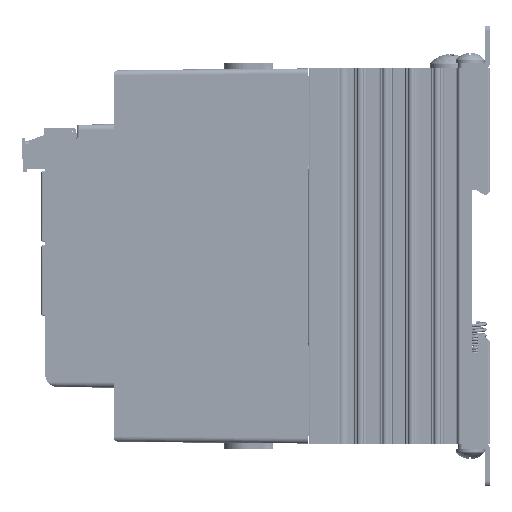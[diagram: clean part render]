
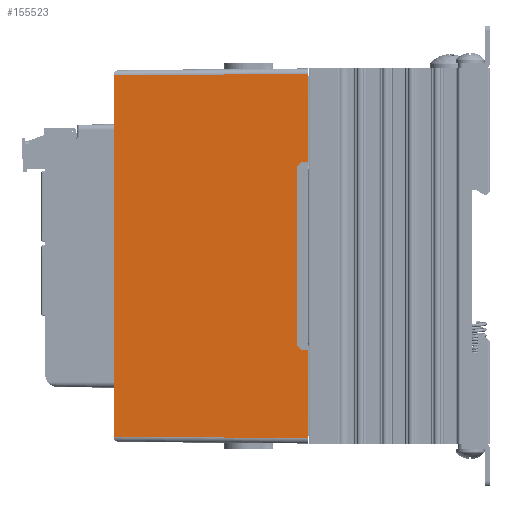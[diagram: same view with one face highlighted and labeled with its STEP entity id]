
A CAD part, left-side view. The second image highlights one B-rep face of the part: STEP entity #155523.
In plain terms, the highlighted planar face has unit normal (-1, 0.009, 0) as drawn and (-1, 0, 0.009) by its records, which use the part's own axes.
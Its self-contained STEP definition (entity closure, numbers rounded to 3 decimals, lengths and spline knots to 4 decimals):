
#15728=FACE_OUTER_BOUND('',#24193,.T.);
#24193=EDGE_LOOP('',(#133300,#133301,#133302,#133303,#133304,#133305,#133306,
#133307,#133308,#133309));
#39452=LINE('',#268453,#57090);
#40247=LINE('',#270423,#57885);
#40250=LINE('',#270428,#57888);
#40252=LINE('',#270433,#57890);
#40258=LINE('',#270444,#57896);
#40262=LINE('',#270452,#57900);
#40270=LINE('',#270472,#57908);
#40271=LINE('',#270474,#57909);
#40272=LINE('',#270476,#57910);
#40273=LINE('',#270477,#57911);
#57090=VECTOR('',#199976,0.3937);
#57885=VECTOR('',#201829,0.3937);
#57888=VECTOR('',#201834,0.3937);
#57890=VECTOR('',#201838,0.3937);
#57896=VECTOR('',#201848,0.3937);
#57900=VECTOR('',#201856,0.3937);
#57908=VECTOR('',#201876,0.3937);
#57909=VECTOR('',#201879,0.3937);
#57910=VECTOR('',#201880,0.3937);
#57911=VECTOR('',#201881,0.3937);
#72384=VERTEX_POINT('',#268450);
#72385=VERTEX_POINT('',#268452);
#72928=VERTEX_POINT('',#270420);
#72929=VERTEX_POINT('',#270422);
#72930=VERTEX_POINT('',#270426);
#72931=VERTEX_POINT('',#270430);
#72932=VERTEX_POINT('',#270432);
#72935=VERTEX_POINT('',#270442);
#72943=VERTEX_POINT('',#270470);
#72944=VERTEX_POINT('',#270475);
#92706=EDGE_CURVE('',#72385,#72384,#39452,.T.);
#93660=EDGE_CURVE('',#72929,#72928,#40247,.T.);
#93663=EDGE_CURVE('',#72928,#72930,#40250,.T.);
#93665=EDGE_CURVE('',#72932,#72931,#40252,.T.);
#93671=EDGE_CURVE('',#72930,#72935,#40258,.T.);
#93675=EDGE_CURVE('',#72935,#72932,#40262,.T.);
#93685=EDGE_CURVE('',#72931,#72943,#40270,.T.);
#93686=EDGE_CURVE('',#72385,#72943,#40271,.T.);
#93687=EDGE_CURVE('',#72944,#72384,#40272,.T.);
#93688=EDGE_CURVE('',#72944,#72929,#40273,.T.);
#133300=ORIENTED_EDGE('',*,*,#93660,.T.);
#133301=ORIENTED_EDGE('',*,*,#93663,.T.);
#133302=ORIENTED_EDGE('',*,*,#93671,.T.);
#133303=ORIENTED_EDGE('',*,*,#93675,.T.);
#133304=ORIENTED_EDGE('',*,*,#93665,.T.);
#133305=ORIENTED_EDGE('',*,*,#93685,.T.);
#133306=ORIENTED_EDGE('',*,*,#93686,.F.);
#133307=ORIENTED_EDGE('',*,*,#92706,.T.);
#133308=ORIENTED_EDGE('',*,*,#93687,.F.);
#133309=ORIENTED_EDGE('',*,*,#93688,.T.);
#147967=PLANE('',#166820);
#155523=ADVANCED_FACE('',(#15728),#147967,.T.);
#166820=AXIS2_PLACEMENT_3D('',#270473,#201877,#201878);
#199976=DIRECTION('',(0.,1.,0.));
#201829=DIRECTION('',(0.009,-0.009,1.));
#201834=DIRECTION('',(0.006,-0.71,0.704));
#201838=DIRECTION('',(-0.009,-0.009,-1.));
#201848=DIRECTION('',(0.,-1.,0.));
#201856=DIRECTION('',(-0.006,-0.71,-0.704));
#201876=DIRECTION('',(0.,-1.,0.));
#201877=DIRECTION('center_axis',(-1.,0.,
0.009));
#201878=DIRECTION('ref_axis',(0.,-1.,0.));
#201879=DIRECTION('',(-0.009,-0.009,-1.));
#201880=DIRECTION('',(0.009,-0.009,1.));
#201881=DIRECTION('',(0.,-1.,0.));
#268450=CARTESIAN_POINT('',(0.0158,3.4342,1.811));
#268452=CARTESIAN_POINT('',(0.0158,0.0658,1.811));
#268453=CARTESIAN_POINT('',(0.0158,3.5,1.811));
#270420=CARTESIAN_POINT('',(0.0005,2.6295,0.0521));
#270422=CARTESIAN_POINT('',(0.,2.63,0.));
#270423=CARTESIAN_POINT('',(0.0001,2.6299,0.0115));
#270426=CARTESIAN_POINT('',(0.0009,2.5762,0.105));
#270428=CARTESIAN_POINT('',(0.0061,1.9795,0.6965));
#270430=CARTESIAN_POINT('',(0.,0.87,0.));
#270432=CARTESIAN_POINT('',(0.0005,0.8705,0.0521));
#270433=CARTESIAN_POINT('',(0.0002,0.8702,0.0223));
#270442=CARTESIAN_POINT('',(0.0009,0.9238,0.105));
#270444=CARTESIAN_POINT('',(0.0009,1.2881,0.105));
#270452=CARTESIAN_POINT('',(-0.0013,0.6646,-0.152));
#270470=CARTESIAN_POINT('',(0.,0.05,0.));
#270472=CARTESIAN_POINT('',(0.,3.5,0.));
#270473=CARTESIAN_POINT('Origin',(0.,0.,0.));
#270474=CARTESIAN_POINT('',(0.0001,0.0501,0.0118));
#270475=CARTESIAN_POINT('',(0.,3.45,0.));
#270476=CARTESIAN_POINT('',(0.0001,3.4499,0.0148));
#270477=CARTESIAN_POINT('',(0.,3.5,0.));
